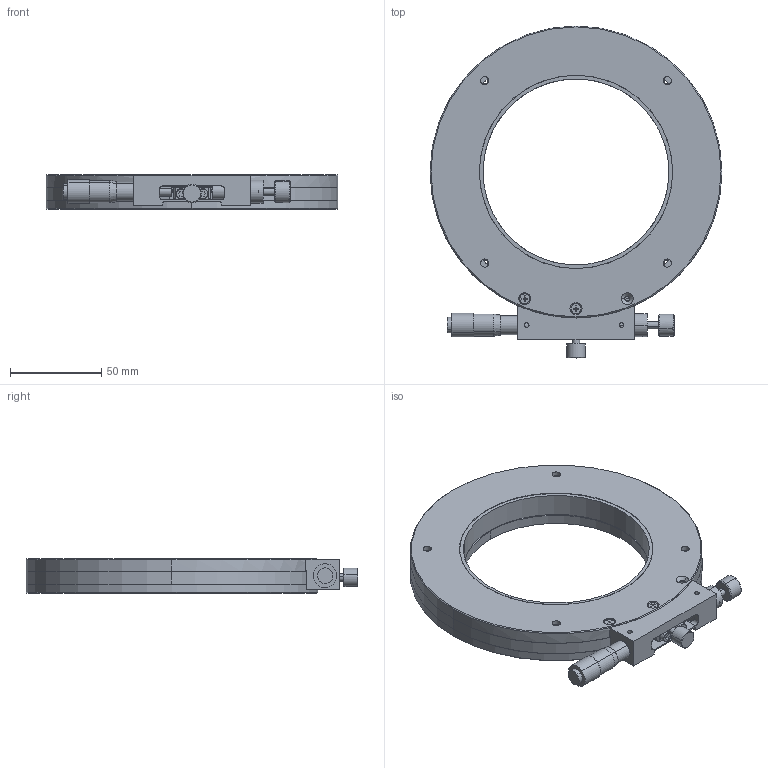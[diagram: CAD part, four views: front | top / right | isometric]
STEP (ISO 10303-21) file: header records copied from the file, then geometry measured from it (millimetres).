
FILE_DESCRIPTION (( 'STEP AP214' ), '1' );
FILE_NAME ('PT-SR160毀忒.STEP', '2023-05-07T08:56:27', ( '' ), ( '' ), 'SwSTEP 2.0', 'SolidWorks 2017', '' );
FILE_SCHEMA (( 'AUTOMOTIVE_DESIGN' ));
Length unit declared in the file: millimetre
Products named in the file (2): PT-SR160毀忒
Bounding box: 160 x 182 x 19 mm (x, y, z)
Volume: 191673.7 mm3; surface area: 108106.9 mm2
Topology: 24 solids, 24 shells, 777 faces, 1939 edges, 1241 vertices
Faces by surface type: plane 300, cylinder 273, bspline 134, cone 70
Entity records: 39349 total; most frequent: CARTESIAN_POINT 12335, ORIENTED_EDGE 3814, DIRECTION 3647, EDGE_CURVE 1907, AXIS2_PLACEMENT_3D 1363, VERTEX_POINT 1241, LINE 921, VECTOR 921
